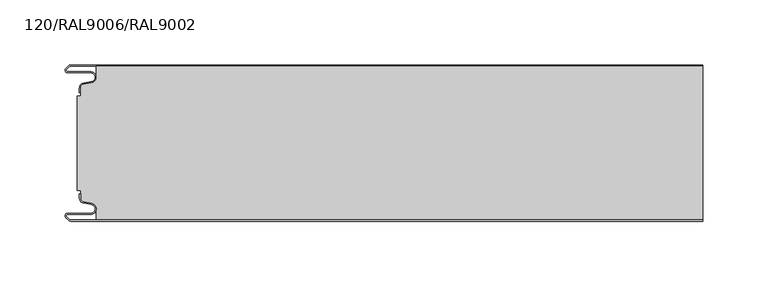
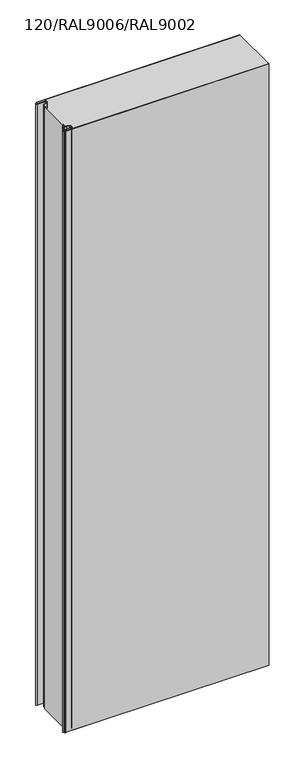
"""IFC4 building model written with IfcOpenShell, lengths in millimetres: plate geometry, TR_C_V_FTV_Panel_cut_GROOVE : 120/RAL9006/RAL9002."""

from ifc_helpers import new_model, si_unit, point, frame, frame_2d, origin, place, context, project, spatial, polyline, circle_curve, trimmed, segment, composite_curve, outline, extrude, source, transform, mapped, element, save


def plate_120_ral9006_ral9002_82f7680e(model_context):
    return source(origin(), model_context, "Body", "SweptSolid", [
        extrude(outline(composite_curve([segment(trimmed(circle_curve(frame_2d((-255.0186278, -117.25)), 2.75), [point((-255.0186278, -120.0))], [point((-256.9631715, -119.1945436))], False, "CARTESIAN"), True, "CONTINUOUS"), segment(polyline([(-256.9631715, -119.1945436), (-258.8288569, -117.3288582)]), True, "CONTINUOUS"), segment(trimmed(circle_curve(frame_2d((-257.4499987, -115.95)), 1.95), [point((-258.8288569, -117.3288582))], [point((-257.4499987, -114.0))], False, "CARTESIAN"), True, "CONTINUOUS"), segment(polyline([(-257.4499987, -114.0), (-239.8499987, -114.0)]), True, "CONTINUOUS"), segment(trimmed(circle_curve(frame_2d((-239.8499987, -110.55)), 3.45), [point((-239.8499987, -114.0))], [point((-239.2509125, -107.1524133))], True, "CARTESIAN"), True, "CONTINUOUS"), segment(polyline([(-239.2509125, -107.1524133), (-245.3011793, -106.085588)]), True, "CONTINUOUS"), segment(trimmed(circle_curve(frame_2d((-244.6499987, -102.3925589)), 3.75), [point((-245.3011793, -106.085588))], [point((-248.3999987, -102.3925589))], False, "CARTESIAN"), True, "CONTINUOUS"), segment(polyline([(-248.3999987, -102.3925589), (-248.3999987, -99.0), (-247.5999987, -99.0), (-247.5999987, -102.3925589)]), True, "CONTINUOUS"), segment(trimmed(circle_curve(frame_2d((-244.6499987, -102.3925589)), 2.95), [point((-247.5999987, -102.3925589))], [point((-245.1622608, -105.2977418))], True, "CARTESIAN"), True, "CONTINUOUS"), segment(polyline([(-245.1622608, -105.2977418), (-239.1119939, -106.364567)]), True, "CONTINUOUS"), segment(trimmed(circle_curve(frame_2d((-239.8499987, -110.55)), 4.25), [point((-239.1119939, -106.364567))], [point((-239.8499987, -114.8))], False, "CARTESIAN"), True, "CONTINUOUS"), segment(polyline([(-239.8499987, -114.8), (-257.4499987, -114.8)]), True, "CONTINUOUS"), segment(trimmed(circle_curve(frame_2d((-257.4499987, -115.95)), 1.15), [point((-257.4499987, -114.8))], [point((-258.2631715, -116.7631728))], True, "CARTESIAN"), True, "CONTINUOUS"), segment(polyline([(-258.2631715, -116.7631728), (-256.3974861, -118.6288582)]), True, "CONTINUOUS"), segment(trimmed(circle_curve(frame_2d((-255.0186278, -117.25)), 1.95), [point((-256.3974861, -118.6288582))], [point((-255.0186278, -119.2))], True, "CARTESIAN"), True, "CONTINUOUS"), segment(polyline([(-255.0186278, -119.2), (229.9999998, -119.2), (229.9999998, -120.0), (-255.0186278, -120.0)]), True, "CONTINUOUS")], self_intersect=False)), frame((0.0, 0.0, -15.0), z_axis=(0.0, 0.0, 1.0), x_axis=(1.0, 0.0, 0.0)), (0.0, 0.0, 1.0), 1515.0),
        extrude(outline(composite_curve([segment(polyline([(-249.9999987, -23.7), (-247.5999987, -23.7), (-247.5999987, -17.6074411)]), True, "CONTINUOUS"), segment(trimmed(circle_curve(frame_2d((-244.6499987, -17.6074411)), 2.95), [point((-247.5999987, -17.6074411))], [point((-245.1622608, -14.7022582))], False, "CARTESIAN"), True, "CONTINUOUS"), segment(polyline([(-245.1622608, -14.7022582), (-239.1119939, -13.635433)]), True, "CONTINUOUS"), segment(trimmed(circle_curve(frame_2d((-239.8499987, -9.45)), 4.25), [point((-239.1119939, -13.635433))], [point((-235.5999987, -9.45))], True, "CARTESIAN"), True, "CONTINUOUS"), segment(polyline([(-235.5999987, -9.45), (-235.5999987, -0.8), (229.9999998, -0.8), (229.9999998, -119.2), (-235.5999987, -119.2), (-235.5999987, -110.55)]), True, "CONTINUOUS"), segment(trimmed(circle_curve(frame_2d((-239.8499987, -110.55)), 4.25), [point((-235.5999987, -110.55))], [point((-239.1119939, -106.364567))], True, "CARTESIAN"), True, "CONTINUOUS"), segment(polyline([(-239.1119939, -106.364567), (-245.1622608, -105.2977418)]), True, "CONTINUOUS"), segment(trimmed(circle_curve(frame_2d((-244.6499987, -102.3925589)), 2.95), [point((-245.1622608, -105.2977418))], [point((-247.5999987, -102.3925589))], False, "CARTESIAN"), True, "CONTINUOUS"), segment(polyline([(-247.5999987, -102.3925589), (-247.5999987, -96.3), (-249.9999987, -96.3), (-249.9999987, -23.7)]), True, "CONTINUOUS")], self_intersect=False)), frame((0.0, 0.0, -15.0), z_axis=(0.0, 0.0, 1.0), x_axis=(1.0, 0.0, 0.0)), (0.0, 0.0, 1.0), 1515.0),
        extrude(outline(composite_curve([segment(trimmed(circle_curve(frame_2d((-255.0186278, -2.75)), 1.95), [point((-255.0186278, -0.8))], [point((-256.3974861, -1.3711418))], True, "CARTESIAN"), True, "CONTINUOUS"), segment(polyline([(-256.3974861, -1.3711418), (-258.2631715, -3.2368272)]), True, "CONTINUOUS"), segment(trimmed(circle_curve(frame_2d((-257.4499987, -4.05)), 1.15), [point((-258.2631715, -3.2368272))], [point((-257.4499987, -5.2))], True, "CARTESIAN"), True, "CONTINUOUS"), segment(polyline([(-257.4499987, -5.2), (-239.8499987, -5.2)]), True, "CONTINUOUS"), segment(trimmed(circle_curve(frame_2d((-239.8499987, -9.45)), 4.25), [point((-239.8499987, -5.2))], [point((-239.1119939, -13.635433))], False, "CARTESIAN"), True, "CONTINUOUS"), segment(polyline([(-239.1119939, -13.635433), (-245.1622608, -14.7022582)]), True, "CONTINUOUS"), segment(trimmed(circle_curve(frame_2d((-244.6499987, -17.6074411)), 2.95), [point((-245.1622608, -14.7022582))], [point((-247.5999987, -17.6074411))], True, "CARTESIAN"), True, "CONTINUOUS"), segment(polyline([(-247.5999987, -17.6074411), (-247.5999987, -21.0), (-248.3999987, -21.0), (-248.3999987, -17.6074411)]), True, "CONTINUOUS"), segment(trimmed(circle_curve(frame_2d((-244.6499987, -17.6074411)), 3.75), [point((-248.3999987, -17.6074411))], [point((-245.3011793, -13.914412))], False, "CARTESIAN"), True, "CONTINUOUS"), segment(polyline([(-245.3011793, -13.914412), (-239.2509125, -12.8475867)]), True, "CONTINUOUS"), segment(trimmed(circle_curve(frame_2d((-239.8499987, -9.45)), 3.45), [point((-239.2509125, -12.8475867))], [point((-239.8499987, -6.0))], True, "CARTESIAN"), True, "CONTINUOUS"), segment(polyline([(-239.8499987, -6.0), (-257.4499987, -6.0)]), True, "CONTINUOUS"), segment(trimmed(circle_curve(frame_2d((-257.4499987, -4.05)), 1.95), [point((-257.4499987, -6.0))], [point((-258.8288569, -2.6711418))], False, "CARTESIAN"), True, "CONTINUOUS"), segment(polyline([(-258.8288569, -2.6711418), (-256.9631715, -0.8054564)]), True, "CONTINUOUS"), segment(trimmed(circle_curve(frame_2d((-255.0186278, -2.75)), 2.75), [point((-256.9631715, -0.8054564))], [point((-255.0186278, 0.0))], False, "CARTESIAN"), True, "CONTINUOUS"), segment(polyline([(-255.0186278, 0.0), (229.9999998, 0.0), (229.9999998, -0.8), (-255.0186278, -0.8)]), True, "CONTINUOUS")], self_intersect=False)), frame((0.0, 0.0, -15.0), z_axis=(0.0, 0.0, 1.0), x_axis=(1.0, 0.0, 0.0)), (0.0, 0.0, 1.0), 1515.0),
    ])


if __name__ == "__main__":
    model = new_model("IFC4")
    model_context = context("Model", 3, world=origin())
    ifc_project = project(units=[si_unit("LENGTHUNIT", "METRE", prefix="MILLI")], contexts=[model_context])
    site = spatial("IfcSite", under=ifc_project)
    building = spatial("IfcBuilding", under=site)
    placement = place(None, origin())
    plate_120_ral9006_ral9002_shape = plate_120_ral9006_ral9002_82f7680e(model_context)
    element("IfcPlate", 1, ObjectType="TR_C_V_FTV_Panel_cut_GROOVE : 120/RAL9006/RAL9002", at=placement, inside=building, context=model_context, shape_type="MappedRepresentation", body=[
        mapped(plate_120_ral9006_ral9002_shape, transform((0.0, 0.0, 0.0), x_axis=(1.0, 0.0, 0.0), y_axis=(0.0, 1.0, 0.0), z_axis=(0.0, 0.0, 1.0))),
    ])
    save(model, "model.ifc")
